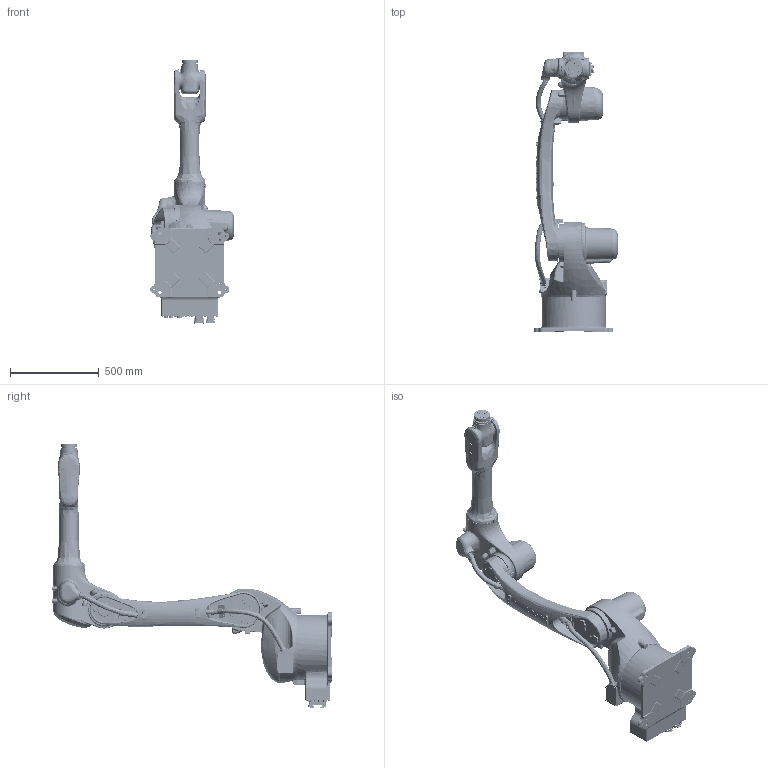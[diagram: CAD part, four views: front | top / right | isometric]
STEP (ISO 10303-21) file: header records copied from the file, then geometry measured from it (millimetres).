
FILE_DESCRIPTION (( 'STEP AP214' ), '1' );
FILE_NAME ('CRP-RA18-25 六轴机器人-简化模型 2022.6.23.STEP', '2022-12-08T08:06:15', ( '' ), ( '' ), 'SwSTEP 2.0', 'SolidWorks 2021', '' );
FILE_SCHEMA (( 'AUTOMOTIVE_DESIGN' ));
Length unit declared in the file: millimetre
Products named in the file (9): CRP-RA18-25 六轴机器人-简化模型 2022.6.23; RA18A0007 勂窒楊擘-潠趙 2022.1.3; RA18A0004 紵窒-潠趙 2022.1.3; RA18A0003 湮旋-潠趙 2022.1.3; RA18A0001 菁釱-潠趙 2022.1.3; RA18A0002 殈窒-潠趙 2022.1.3; RA18A0008 奪盄婦; RA18A0005 苤旋-潠趙 2022.1.3; RA18A0006 勂窒-潠趙 2022.1.3
Assembly tree (8 placements, depth 2):
  CRP-RA18-25 六轴机器人-简化模型 2022.6.23
    RA18A0001 菁釱-潠趙 2022.1.3
    RA18A0002 殈窒-潠趙 2022.1.3
    RA18A0003 湮旋-潠趙 2022.1.3
    RA18A0004 紵窒-潠趙 2022.1.3
    RA18A0005 苤旋-潠趙 2022.1.3
    RA18A0006 勂窒-潠趙 2022.1.3
    RA18A0007 勂窒楊擘-潠趙 2022.1.3
    RA18A0008 奪盄婦
Bounding box: 470.48 x 1579.4 x 1492.97 mm (x, y, z)
Volume: 94984941.7 mm3; surface area: 3371309.1 mm2
Topology: 10 solids, 73 shells, 6512 faces, 15890 edges, 9538 vertices
Faces by surface type: bspline 2149, cylinder 1906, plane 1619, torus 482, cone 285, sphere 71
Entity records: 680821 total; most frequent: CARTESIAN_POINT 528460, ORIENTED_EDGE 31148, DIRECTION 24704, EDGE_CURVE 15574, AXIS2_PLACEMENT_3D 9892, VERTEX_POINT 9516, EDGE_LOOP 6966, ADVANCED_FACE 6511
